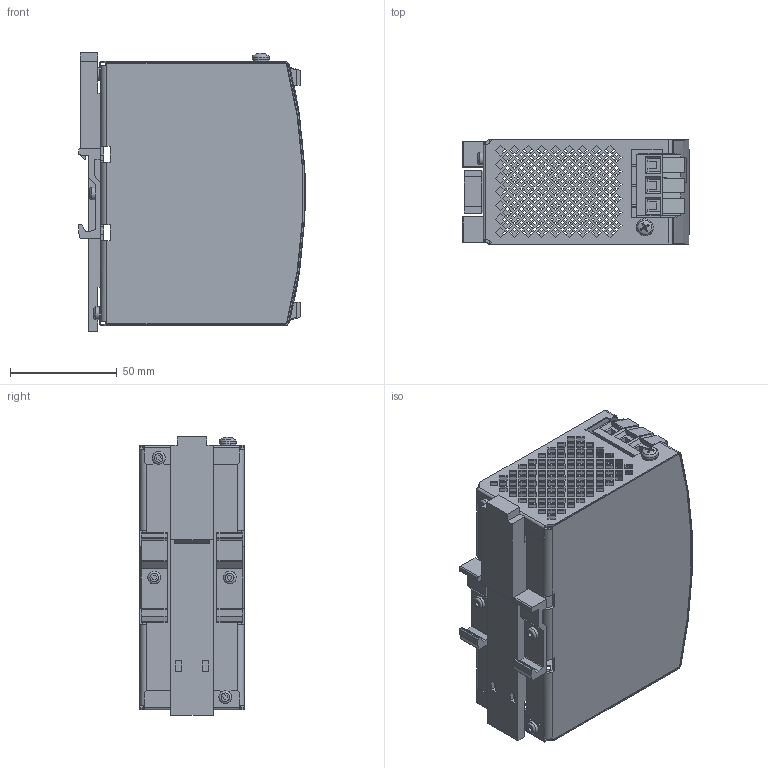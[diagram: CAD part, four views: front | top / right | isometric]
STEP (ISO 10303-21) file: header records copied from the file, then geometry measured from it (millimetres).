
FILE_DESCRIPTION((''),'2;1');
FILE_NAME('C:\Users\rahns\Desktop\Sylvia Info´s\Dateien für Vertrieb\SLD\md3_sld2_100.stp','2012-06-11T08:34:59',('rahns'),(''),'Autodesk Inventor 2009','Autodesk Inventor 2009','');
FILE_SCHEMA(('AUTOMOTIVE_DESIGN { 1 0 10303 214 1 1 1 1 }'));
Length unit declared in the file: millimetre
Products named in the file (11): 297; HOUSING BODY 293; HOUSING COVER 293; TERMINAL 3P GR90; TERMINAL 2P GR90; T-HOLDER_SL; SCREW 3x6; SLIDER SL; SCREW 4x8; WASHER 4; FRONTFOIL 297
Assembly tree (15 placements, depth 2):
  297
    HOUSING BODY 293
    HOUSING COVER 293
    TERMINAL 3P GR90
    TERMINAL 2P GR90  x2
    T-HOLDER_SL  x2
    SCREW 3x6  x4
    SLIDER SL
    SCREW 4x8
    WASHER 4
    FRONTFOIL 297
Bounding box: 106.42 x 49 x 130.5 mm (x, y, z)
Volume: 83678.7 mm3; surface area: 110701.9 mm2
Topology: 15 solids, 15 shells, 2206 faces, 6180 edges, 4087 vertices
Faces by surface type: plane 1838, bspline 188, cylinder 153, cone 16, torus 10, sphere 1
Full cylindrical faces by diameter (mm): 2.45 x4, 3 x4, 3.5 x2, 3.621 x1, 4 x1, 4.4 x1, 4.9 x3, 5.5 x7, 6 x4
Entity records: 133091 total; most frequent: CARTESIAN_POINT 80791, ORIENTED_EDGE 11312, DIRECTION 9055, EDGE_CURVE 5656, VECTOR 4701, LINE 4701, VERTEX_POINT 3760, EDGE_LOOP 2620
